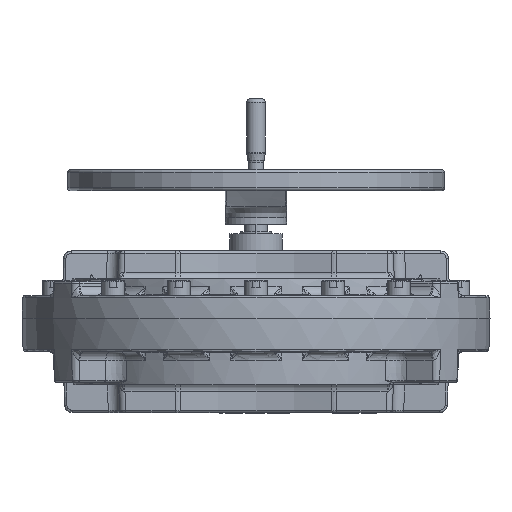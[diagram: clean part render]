
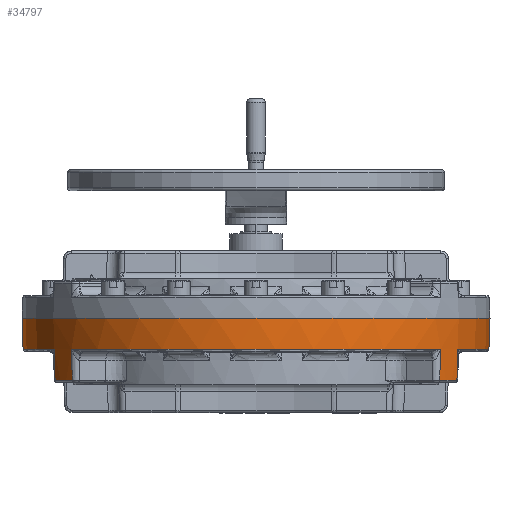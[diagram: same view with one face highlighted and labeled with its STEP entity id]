
A CAD part, front view. The second image highlights one B-rep face of the part: STEP entity #34797.
In plain terms, the highlighted conical face has half-angle 2 degrees and reference radius 310 mm.
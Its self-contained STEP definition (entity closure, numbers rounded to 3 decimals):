
#170 = DIRECTION ( 'NONE',  ( 1., 0., 0. ) ) ;
#257 = ORIENTED_EDGE ( 'NONE', *, *, #107722, .F. ) ;
#1370 = AXIS2_PLACEMENT_3D ( 'NONE', #47603, #135996, #60344 ) ;
#1670 = CARTESIAN_POINT ( 'NONE',  ( -266.191, -153.209, -82.105 ) ) ;
#2621 = CIRCLE ( 'NONE', #157199, 307.133 ) ;
#3296 = ORIENTED_EDGE ( 'NONE', *, *, #93743, .T. ) ;
#4949 = EDGE_CURVE ( 'NONE', #25019, #147735, #111541, .T. ) ;
#5485 = EDGE_CURVE ( 'NONE', #51820, #106529, #71585, .T. ) ;
#6599 = DIRECTION ( 'NONE',  ( 0.028, -0.021, 0.999 ) ) ;
#7082 = AXIS2_PLACEMENT_3D ( 'NONE', #109961, #34168, #122629 ) ;
#9666 = ORIENTED_EDGE ( 'NONE', *, *, #58209, .F. ) ;
#19565 = VERTEX_POINT ( 'NONE', #74629 ) ;
#24141 = EDGE_CURVE ( 'NONE', #106529, #108020, #130657, .T. ) ;
#24372 = CARTESIAN_POINT ( 'NONE',  ( 0., 0., -41.105 ) ) ;
#24501 = EDGE_CURVE ( 'NONE', #52282, #37122, #90832, .T. ) ;
#25019 = VERTEX_POINT ( 'NONE', #95406 ) ;
#25760 = AXIS2_PLACEMENT_3D ( 'NONE', #121705, #108486, #96843 ) ;
#26772 = DIRECTION ( 'NONE',  ( -0.03, -0.017, 0.999 ) ) ;
#29228 = CARTESIAN_POINT ( 'NONE',  ( -310., 0., 0. ) ) ;
#30913 = VECTOR ( 'NONE', #125442, 1000. ) ;
#31768 = VERTEX_POINT ( 'NONE', #32884 ) ;
#32884 = CARTESIAN_POINT ( 'NONE',  ( -308.565, 0., -41.105 ) ) ;
#34168 = DIRECTION ( 'NONE',  ( 0., 0., 1. ) ) ;
#34797 = ADVANCED_FACE ( 'NONE', ( #93681 ), #44220, .T. ) ;
#37063 = DIRECTION ( 'NONE',  ( 1., 0., 0. ) ) ;
#37122 = VERTEX_POINT ( 'NONE', #90457 ) ;
#39497 = CARTESIAN_POINT ( 'NONE',  ( -268.676, -154.639, 0. ) ) ;
#44220 = CONICAL_SURFACE ( 'NONE', #25760, 310., 0.035 ) ;
#47603 = CARTESIAN_POINT ( 'NONE',  ( 0., 0., -82.105 ) ) ;
#50338 = CARTESIAN_POINT ( 'NONE',  ( 243.413, -187.298, -82.105 ) ) ;
#51820 = VERTEX_POINT ( 'NONE', #68914 ) ;
#52282 = VERTEX_POINT ( 'NONE', #50338 ) ;
#52562 = LINE ( 'NONE', #113262, #115809 ) ;
#52593 = ORIENTED_EDGE ( 'NONE', *, *, #24501, .F. ) ;
#57209 = VECTOR ( 'NONE', #6599, 1000. ) ;
#58209 = EDGE_CURVE ( 'NONE', #31768, #159641, #98195, .T. ) ;
#58378 = ORIENTED_EDGE ( 'NONE', *, *, #4949, .T. ) ;
#59909 = DIRECTION ( 'NONE',  ( 0., 0., 1. ) ) ;
#60217 = DIRECTION ( 'NONE',  ( 0., 0., 1. ) ) ;
#60344 = DIRECTION ( 'NONE',  ( 1., 0., 0. ) ) ;
#63647 = AXIS2_PLACEMENT_3D ( 'NONE', #135553, #59909, #148267 ) ;
#65398 = VERTEX_POINT ( 'NONE', #1670 ) ;
#68618 = CARTESIAN_POINT ( 'NONE',  ( 308.565, 0., -41.105 ) ) ;
#68914 = CARTESIAN_POINT ( 'NONE',  ( 267.432, -153.923, -41.105 ) ) ;
#69887 = CARTESIAN_POINT ( 'NONE',  ( -267.432, -153.923, -41.105 ) ) ;
#71585 = CIRCLE ( 'NONE', #7082, 308.565 ) ;
#73954 = VECTOR ( 'NONE', #84146, 1000. ) ;
#74629 = CARTESIAN_POINT ( 'NONE',  ( 266.191, -153.209, -82.105 ) ) ;
#75916 = DIRECTION ( 'NONE',  ( 0., 0., 1. ) ) ;
#84146 = DIRECTION ( 'NONE',  ( -0.028, -0.021, 0.999 ) ) ;
#88342 = AXIS2_PLACEMENT_3D ( 'NONE', #151528, #75916, #170 ) ;
#88469 = CARTESIAN_POINT ( 'NONE',  ( -310., 0., 0. ) ) ;
#90457 = CARTESIAN_POINT ( 'NONE',  ( 244.548, -188.171, -41.105 ) ) ;
#90737 = ORIENTED_EDGE ( 'NONE', *, *, #116499, .T. ) ;
#90832 = LINE ( 'NONE', #119887, #57209 ) ;
#93602 = VECTOR ( 'NONE', #26772, 1000. ) ;
#93681 = FACE_OUTER_BOUND ( 'NONE', #100560, .T. ) ;
#93743 = EDGE_CURVE ( 'NONE', #52282, #19565, #2621, .T. ) ;
#95406 = CARTESIAN_POINT ( 'NONE',  ( -243.413, -187.298, -82.105 ) ) ;
#96590 = ORIENTED_EDGE ( 'NONE', *, *, #106167, .T. ) ;
#96843 = DIRECTION ( 'NONE',  ( -1., 0., 0. ) ) ;
#96879 = CARTESIAN_POINT ( 'NONE',  ( -245.686, -189.046, 0. ) ) ;
#97014 = VECTOR ( 'NONE', #159147, 1000. ) ;
#98195 = LINE ( 'NONE', #88469, #30913 ) ;
#100080 = EDGE_CURVE ( 'NONE', #65398, #121274, #160708, .T. ) ;
#100454 = CIRCLE ( 'NONE', #109475, 308.565 ) ;
#100560 = EDGE_LOOP ( 'NONE', ( #152087, #125656, #257, #9666, #133912, #130804, #90737, #58378, #96590, #52593, #3296, #121128 ) ) ;
#106167 = EDGE_CURVE ( 'NONE', #147735, #37122, #136410, .T. ) ;
#106529 = VERTEX_POINT ( 'NONE', #68618 ) ;
#107722 = EDGE_CURVE ( 'NONE', #159641, #108020, #143449, .T. ) ;
#108020 = VERTEX_POINT ( 'NONE', #137528 ) ;
#108486 = DIRECTION ( 'NONE',  ( 0., 0., 1. ) ) ;
#109475 = AXIS2_PLACEMENT_3D ( 'NONE', #24372, #112838, #37063 ) ;
#109961 = CARTESIAN_POINT ( 'NONE',  ( 0., 0., -41.105 ) ) ;
#111541 = LINE ( 'NONE', #96879, #73954 ) ;
#112838 = DIRECTION ( 'NONE',  ( 0., 0., 1. ) ) ;
#113262 = CARTESIAN_POINT ( 'NONE',  ( 268.676, -154.639, 0. ) ) ;
#115809 = VECTOR ( 'NONE', #163931, 1000. ) ;
#116499 = EDGE_CURVE ( 'NONE', #65398, #25019, #162510, .T. ) ;
#119887 = CARTESIAN_POINT ( 'NONE',  ( 245.686, -189.046, 0. ) ) ;
#121128 = ORIENTED_EDGE ( 'NONE', *, *, #127112, .T. ) ;
#121274 = VERTEX_POINT ( 'NONE', #69887 ) ;
#121705 = CARTESIAN_POINT ( 'NONE',  ( 0., 0., 0. ) ) ;
#122629 = DIRECTION ( 'NONE',  ( 1., 0., 0. ) ) ;
#125442 = DIRECTION ( 'NONE',  ( -0.035, 0., 0.999 ) ) ;
#125656 = ORIENTED_EDGE ( 'NONE', *, *, #24141, .T. ) ;
#127112 = EDGE_CURVE ( 'NONE', #19565, #51820, #52562, .T. ) ;
#130657 = LINE ( 'NONE', #147047, #97014 ) ;
#130804 = ORIENTED_EDGE ( 'NONE', *, *, #100080, .F. ) ;
#132254 = EDGE_CURVE ( 'NONE', #31768, #121274, #100454, .T. ) ;
#133912 = ORIENTED_EDGE ( 'NONE', *, *, #132254, .T. ) ;
#135553 = CARTESIAN_POINT ( 'NONE',  ( 0., 0., -41.105 ) ) ;
#135866 = CARTESIAN_POINT ( 'NONE',  ( 0., 0., -82.105 ) ) ;
#135996 = DIRECTION ( 'NONE',  ( 0., 0., 1. ) ) ;
#136410 = CIRCLE ( 'NONE', #63647, 308.565 ) ;
#137528 = CARTESIAN_POINT ( 'NONE',  ( 310., 0., 0. ) ) ;
#142095 = CARTESIAN_POINT ( 'NONE',  ( -244.548, -188.171, -41.105 ) ) ;
#143449 = CIRCLE ( 'NONE', #88342, 310. ) ;
#147047 = CARTESIAN_POINT ( 'NONE',  ( 310., 0., 0. ) ) ;
#147735 = VERTEX_POINT ( 'NONE', #142095 ) ;
#148267 = DIRECTION ( 'NONE',  ( 1., 0., 0. ) ) ;
#148589 = DIRECTION ( 'NONE',  ( 1., 0., 0. ) ) ;
#151528 = CARTESIAN_POINT ( 'NONE',  ( 0., 0., 0. ) ) ;
#152087 = ORIENTED_EDGE ( 'NONE', *, *, #5485, .T. ) ;
#157199 = AXIS2_PLACEMENT_3D ( 'NONE', #135866, #60217, #148589 ) ;
#159147 = DIRECTION ( 'NONE',  ( 0.035, 0., 0.999 ) ) ;
#159641 = VERTEX_POINT ( 'NONE', #29228 ) ;
#160708 = LINE ( 'NONE', #39497, #93602 ) ;
#162510 = CIRCLE ( 'NONE', #1370, 307.133 ) ;
#163931 = DIRECTION ( 'NONE',  ( 0.03, -0.017, 0.999 ) ) ;
